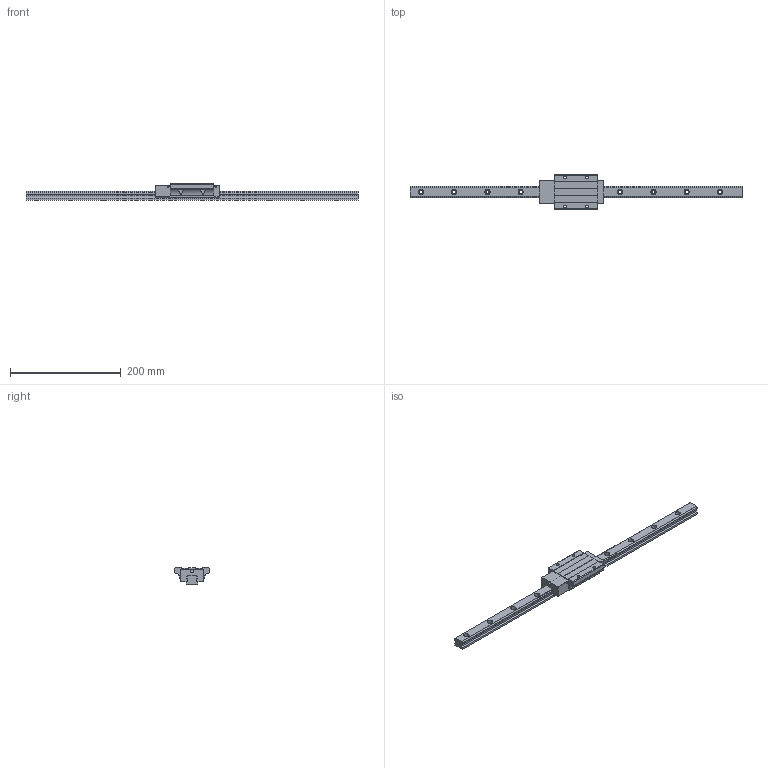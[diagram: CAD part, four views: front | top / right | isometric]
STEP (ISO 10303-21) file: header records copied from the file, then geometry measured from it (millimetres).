
FILE_DESCRIPTION (( 'STEP AP203' ), '1' );
FILE_NAME ('TRH20FE-BN.STEP', '2024-06-26T07:26:30', ( '' ), ( '' ), 'SwSTEP 2.0', 'SolidWorks 2022', '' );
FILE_SCHEMA (( 'CONFIG_CONTROL_DESIGN' ));
Length unit declared in the file: millimetre
Products named in the file (1): TRH20FE-BN
Bounding box: 600 x 63 x 30 mm (x, y, z)
Volume: 276655.8 mm3; surface area: 73976.2 mm2
Topology: 2 solids, 2 shells, 222 faces, 598 edges, 392 vertices
Faces by surface type: cylinder 126, plane 92, sphere 4
Entity records: 7691 total; most frequent: CARTESIAN_POINT 1835, DIRECTION 1242, ORIENTED_EDGE 1188, EDGE_CURVE 594, AXIS2_PLACEMENT_3D 451, VERTEX_POINT 392, VECTOR 340, LINE 340
